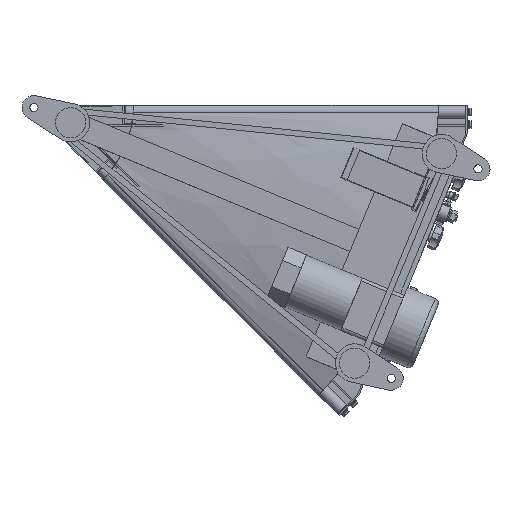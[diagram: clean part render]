
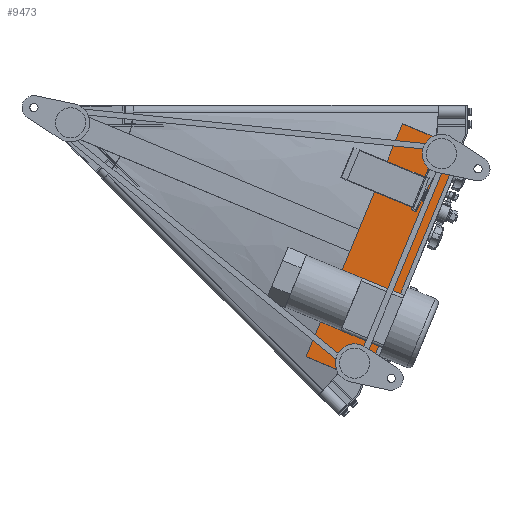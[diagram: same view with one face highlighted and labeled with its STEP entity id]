
A CAD part, front view. The second image highlights one B-rep face of the part: STEP entity #9473.
In plain terms, the highlighted planar face has unit normal (0, -1, 0).
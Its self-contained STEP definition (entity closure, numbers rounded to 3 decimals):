
#204 = DIRECTION ( 'NONE',  ( 0.078, 0., 0.997 ) ) ;
#841 = DIRECTION ( 'NONE',  ( -0.924, 0., -0.383 ) ) ;
#1494 = DIRECTION ( 'NONE',  ( -0.383, 0., -0.924 ) ) ;
#2223 = ORIENTED_EDGE ( 'NONE', *, *, #9226, .F. ) ;
#3206 = VERTEX_POINT ( 'NONE', #6074 ) ;
#4973 = DIRECTION ( 'NONE',  ( 0.383, 0., -0.924 ) ) ;
#5308 = CARTESIAN_POINT ( 'NONE',  ( 543.027, -167.5, -408.936 ) ) ;
#6074 = CARTESIAN_POINT ( 'NONE',  ( 503.831, -167.5, -425.172 ) ) ;
#6744 = CARTESIAN_POINT ( 'NONE',  ( 673.14, -167.5, -94.817 ) ) ;
#7095 = ORIENTED_EDGE ( 'NONE', *, *, #12312, .F. ) ;
#7492 = CARTESIAN_POINT ( 'NONE',  ( 656.904, -167.5, -55.62 ) ) ;
#8287 = ORIENTED_EDGE ( 'NONE', *, *, #17335, .F. ) ;
#8333 = VERTEX_POINT ( 'NONE', #29810 ) ;
#9226 = EDGE_CURVE ( 'NONE', #20704, #23227, #18515, .T. ) ;
#9322 = CARTESIAN_POINT ( 'NONE',  ( 439.159, -167.5, -398.384 ) ) ;
#9473 = ADVANCED_FACE ( 'NONE', ( #14237 ), #19963, .F. ) ;
#9681 = LINE ( 'NONE', #9322, #26410 ) ;
#9701 = AXIS2_PLACEMENT_3D ( 'NONE', #27645, #12562, #204 ) ;
#9743 = VECTOR ( 'NONE', #27230, 1000. ) ;
#9868 = EDGE_LOOP ( 'NONE', ( #10534, #2223, #7095, #8287, #31766, #25739 ) ) ;
#10262 = CARTESIAN_POINT ( 'NONE',  ( 439.159, -167.5, -398.384 ) ) ;
#10534 = ORIENTED_EDGE ( 'NONE', *, *, #23219, .F. ) ;
#12052 = DIRECTION ( 'NONE',  ( -0.924, 0., 0.383 ) ) ;
#12312 = EDGE_CURVE ( 'NONE', #8333, #20704, #14790, .T. ) ;
#12396 = VECTOR ( 'NONE', #4973, 1000. ) ;
#12562 = DIRECTION ( 'NONE',  ( 0., 1., 0. ) ) ;
#13194 = CARTESIAN_POINT ( 'NONE',  ( 673.14, -167.5, -94.817 ) ) ;
#13728 = CARTESIAN_POINT ( 'NONE',  ( 503.831, -167.5, -425.172 ) ) ;
#14237 = FACE_OUTER_BOUND ( 'NONE', #9868, .T. ) ;
#14790 = LINE ( 'NONE', #10262, #9743 ) ;
#15978 = CARTESIAN_POINT ( 'NONE',  ( 592.232, -167.5, -28.832 ) ) ;
#16439 = CARTESIAN_POINT ( 'NONE',  ( 543.027, -167.5, -408.936 ) ) ;
#17335 = EDGE_CURVE ( 'NONE', #3206, #8333, #9681, .T. ) ;
#18515 = LINE ( 'NONE', #15978, #23177 ) ;
#19686 = CARTESIAN_POINT ( 'NONE',  ( 592.232, -167.5, -28.832 ) ) ;
#19963 = PLANE ( 'NONE',  #9701 ) ;
#20704 = VERTEX_POINT ( 'NONE', #19686 ) ;
#23177 = VECTOR ( 'NONE', #28667, 1000. ) ;
#23219 = EDGE_CURVE ( 'NONE', #23227, #25703, #26407, .T. ) ;
#23227 = VERTEX_POINT ( 'NONE', #7492 ) ;
#25703 = VERTEX_POINT ( 'NONE', #13194 ) ;
#25739 = ORIENTED_EDGE ( 'NONE', *, *, #31179, .F. ) ;
#26407 = LINE ( 'NONE', #6744, #12396 ) ;
#26410 = VECTOR ( 'NONE', #12052, 1000. ) ;
#26634 = VECTOR ( 'NONE', #841, 1000. ) ;
#27230 = DIRECTION ( 'NONE',  ( 0.383, 0., 0.924 ) ) ;
#27368 = LINE ( 'NONE', #13728, #26634 ) ;
#27645 = CARTESIAN_POINT ( 'NONE',  ( 13.567, -167.5, -5.62 ) ) ;
#28226 = VECTOR ( 'NONE', #1494, 1000. ) ;
#28667 = DIRECTION ( 'NONE',  ( 0.924, 0., -0.383 ) ) ;
#29810 = CARTESIAN_POINT ( 'NONE',  ( 439.159, -167.5, -398.384 ) ) ;
#30889 = VERTEX_POINT ( 'NONE', #5308 ) ;
#30968 = LINE ( 'NONE', #16439, #28226 ) ;
#31179 = EDGE_CURVE ( 'NONE', #25703, #30889, #30968, .T. ) ;
#31466 = EDGE_CURVE ( 'NONE', #30889, #3206, #27368, .T. ) ;
#31766 = ORIENTED_EDGE ( 'NONE', *, *, #31466, .F. ) ;
